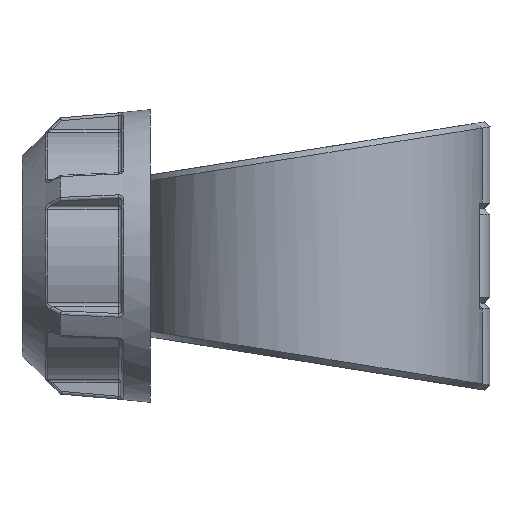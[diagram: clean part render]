
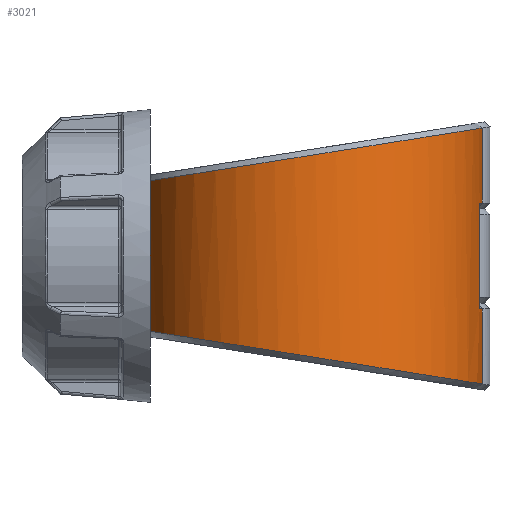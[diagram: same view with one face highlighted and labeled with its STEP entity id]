
A CAD part, left-side view. The second image highlights one B-rep face of the part: STEP entity #3021.
In plain terms, the highlighted cylindrical face has radius 59.5 mm (diameter 119 mm), a partial arc.
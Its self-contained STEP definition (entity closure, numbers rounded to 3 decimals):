
#212=FACE_OUTER_BOUND('',#416,.T.);
#416=EDGE_LOOP('',(#2055,#2056,#2057,#2058,#2059,#2060,#2061,#2062,#2063,
#2064,#2065,#2066));
#623=CIRCLE('',#3251,59.5);
#626=CIRCLE('',#3256,59.5);
#805=B_SPLINE_CURVE_WITH_KNOTS('',3,(#4524,#4525,#4526,#4527),
 .UNSPECIFIED.,.F.,.F.,(4,4),(-0.002,0.),.UNSPECIFIED.);
#806=B_SPLINE_CURVE_WITH_KNOTS('',3,(#4529,#4530,#4531,#4532),
 .UNSPECIFIED.,.F.,.F.,(4,4),(-3.037,-3.037),
 .UNSPECIFIED.);
#807=B_SPLINE_CURVE_WITH_KNOTS('',3,(#4533,#4534,#4535,#4536,#4537,#4538,
#4539,#4540,#4541,#4542),.UNSPECIFIED.,.F.,.F.,(4,1,1,1,1,1,1,4),(0.316,
0.596,1.005,1.415,1.824,2.233,
2.642,3.037),.UNSPECIFIED.);
#808=B_SPLINE_CURVE_WITH_KNOTS('',3,(#4544,#4545,#4546,#4547,#4548,#4549,
#4550,#4551,#4552,#4553),.UNSPECIFIED.,.F.,.F.,(4,1,1,1,1,1,1,4),(-3.037,
-2.642,-2.233,-1.824,-1.415,
-1.005,-0.596,-0.316),.UNSPECIFIED.);
#809=B_SPLINE_CURVE_WITH_KNOTS('',3,(#4555,#4556,#4557,#4558),
 .UNSPECIFIED.,.F.,.F.,(4,4),(3.037,3.037),
 .UNSPECIFIED.);
#810=B_SPLINE_CURVE_WITH_KNOTS('',3,(#4560,#4561,#4562,#4563),
 .UNSPECIFIED.,.F.,.F.,(4,4),(-0.435,-0.433),
 .UNSPECIFIED.);
#972=LINE('',#4397,#1093);
#979=LINE('',#4458,#1100);
#985=LINE('',#4522,#1106);
#986=LINE('',#4564,#1107);
#1093=VECTOR('',#3575,10.);
#1100=VECTOR('',#3592,10.);
#1106=VECTOR('',#3638,10.);
#1107=VECTOR('',#3639,10.);
#1216=VERTEX_POINT('',#4376);
#1217=VERTEX_POINT('',#4396);
#1229=VERTEX_POINT('',#4452);
#1230=VERTEX_POINT('',#4457);
#1236=VERTEX_POINT('',#4478);
#1239=VERTEX_POINT('',#4499);
#1243=VERTEX_POINT('',#4521);
#1244=VERTEX_POINT('',#4523);
#1245=VERTEX_POINT('',#4528);
#1246=VERTEX_POINT('',#4543);
#1247=VERTEX_POINT('',#4554);
#1248=VERTEX_POINT('',#4559);
#1510=EDGE_CURVE('',#1216,#1217,#972,.T.);
#1524=EDGE_CURVE('',#1229,#1230,#979,.T.);
#1537=EDGE_CURVE('',#1236,#1229,#623,.T.);
#1542=EDGE_CURVE('',#1230,#1239,#626,.T.);
#1548=EDGE_CURVE('',#1243,#1236,#985,.T.);
#1549=EDGE_CURVE('',#1244,#1243,#805,.T.);
#1550=EDGE_CURVE('',#1244,#1245,#806,.T.);
#1551=EDGE_CURVE('',#1217,#1245,#807,.T.);
#1552=EDGE_CURVE('',#1246,#1216,#808,.T.);
#1553=EDGE_CURVE('',#1246,#1247,#809,.T.);
#1554=EDGE_CURVE('',#1248,#1247,#810,.T.);
#1555=EDGE_CURVE('',#1239,#1248,#986,.T.);
#2055=ORIENTED_EDGE('',*,*,#1542,.F.);
#2056=ORIENTED_EDGE('',*,*,#1524,.F.);
#2057=ORIENTED_EDGE('',*,*,#1537,.F.);
#2058=ORIENTED_EDGE('',*,*,#1548,.F.);
#2059=ORIENTED_EDGE('',*,*,#1549,.F.);
#2060=ORIENTED_EDGE('',*,*,#1550,.T.);
#2061=ORIENTED_EDGE('',*,*,#1551,.F.);
#2062=ORIENTED_EDGE('',*,*,#1510,.F.);
#2063=ORIENTED_EDGE('',*,*,#1552,.F.);
#2064=ORIENTED_EDGE('',*,*,#1553,.T.);
#2065=ORIENTED_EDGE('',*,*,#1554,.F.);
#2066=ORIENTED_EDGE('',*,*,#1555,.F.);
#2962=CYLINDRICAL_SURFACE('',#3261,59.5);
#3021=ADVANCED_FACE('',(#212),#2962,.T.);
#3251=AXIS2_PLACEMENT_3D('',#4494,#3614,#3615);
#3256=AXIS2_PLACEMENT_3D('',#4508,#3624,#3625);
#3261=AXIS2_PLACEMENT_3D('',#4520,#3636,#3637);
#3575=DIRECTION('',(0.,0.,1.));
#3592=DIRECTION('',(0.,0.,-1.));
#3614=DIRECTION('center_axis',(0.,0.,-1.));
#3615=DIRECTION('ref_axis',(0.312,-0.95,0.));
#3624=DIRECTION('center_axis',(0.,0.,1.));
#3625=DIRECTION('ref_axis',(0.312,-0.95,0.));
#3636=DIRECTION('center_axis',(0.,0.,1.));
#3637=DIRECTION('ref_axis',(-0.312,0.95,0.));
#3638=DIRECTION('',(0.,0.,-1.));
#3639=DIRECTION('',(0.,0.,-1.));
#4376=CARTESIAN_POINT('',(-18.579,56.525,-26.198));
#4396=CARTESIAN_POINT('',(-18.579,56.525,26.198));
#4397=CARTESIAN_POINT('',(-18.579,56.525,0.));
#4452=CARTESIAN_POINT('',(-12.115,-58.254,18.45));
#4457=CARTESIAN_POINT('',(-12.115,-58.254,-18.45));
#4458=CARTESIAN_POINT('',(-12.115,-58.254,0.));
#4478=CARTESIAN_POINT('',(-6.19,-59.177,18.45));
#4494=CARTESIAN_POINT('Origin',(0.,0.,18.45));
#4499=CARTESIAN_POINT('',(-6.19,-59.177,-18.45));
#4508=CARTESIAN_POINT('Origin',(0.,0.,-18.45));
#4520=CARTESIAN_POINT('Origin',(0.,0.,0.));
#4521=CARTESIAN_POINT('',(-6.19,-59.177,44.557));
#4522=CARTESIAN_POINT('',(-6.19,-59.177,0.));
#4523=CARTESIAN_POINT('',(-6.17,-59.179,44.571));
#4524=CARTESIAN_POINT('Ctrl Pts',(-6.17,-59.179,44.571));
#4525=CARTESIAN_POINT('Ctrl Pts',(-6.177,-59.178,44.566));
#4526=CARTESIAN_POINT('Ctrl Pts',(-6.183,-59.177,44.562));
#4527=CARTESIAN_POINT('Ctrl Pts',(-6.19,-59.177,44.557));
#4528=CARTESIAN_POINT('',(-6.19,-59.177,44.571));
#4529=CARTESIAN_POINT('Ctrl Pts',(-6.17,-59.179,44.571));
#4530=CARTESIAN_POINT('Ctrl Pts',(-6.177,-59.178,44.571));
#4531=CARTESIAN_POINT('Ctrl Pts',(-6.183,-59.178,44.571));
#4532=CARTESIAN_POINT('Ctrl Pts',(-6.19,-59.177,44.571));
#4533=CARTESIAN_POINT('Ctrl Pts',(-18.578,56.522,26.198));
#4534=CARTESIAN_POINT('Ctrl Pts',(-23.883,54.777,26.474));
#4535=CARTESIAN_POINT('Ctrl Pts',(-36.333,48.653,27.441));
#4536=CARTESIAN_POINT('Ctrl Pts',(-51.816,32.553,29.988));
#4537=CARTESIAN_POINT('Ctrl Pts',(-60.498,9.2,33.688));
#4538=CARTESIAN_POINT('Ctrl Pts',(-59.15,-15.622,37.631));
#4539=CARTESIAN_POINT('Ctrl Pts',(-48.086,-37.823,41.164));
#4540=CARTESIAN_POINT('Ctrl Pts',(-29.375,-53.586,43.678));
#4541=CARTESIAN_POINT('Ctrl Pts',(-13.932,-58.366,44.441));
#4542=CARTESIAN_POINT('Ctrl Pts',(-6.19,-59.177,44.571));
#4543=CARTESIAN_POINT('',(-6.19,-59.177,-44.571));
#4544=CARTESIAN_POINT('Ctrl Pts',(-6.19,-59.177,-44.571));
#4545=CARTESIAN_POINT('Ctrl Pts',(-13.932,-58.366,-44.441));
#4546=CARTESIAN_POINT('Ctrl Pts',(-29.375,-53.586,-43.678));
#4547=CARTESIAN_POINT('Ctrl Pts',(-48.086,-37.823,-41.164));
#4548=CARTESIAN_POINT('Ctrl Pts',(-59.151,-15.622,-37.631));
#4549=CARTESIAN_POINT('Ctrl Pts',(-60.497,9.2,-33.688));
#4550=CARTESIAN_POINT('Ctrl Pts',(-51.819,32.555,-29.987));
#4551=CARTESIAN_POINT('Ctrl Pts',(-36.33,48.65,-27.442));
#4552=CARTESIAN_POINT('Ctrl Pts',(-23.882,54.776,-26.474));
#4553=CARTESIAN_POINT('Ctrl Pts',(-18.578,56.522,-26.198));
#4554=CARTESIAN_POINT('',(-6.17,-59.179,-44.571));
#4555=CARTESIAN_POINT('Ctrl Pts',(-6.19,-59.177,-44.571));
#4556=CARTESIAN_POINT('Ctrl Pts',(-6.183,-59.178,-44.571));
#4557=CARTESIAN_POINT('Ctrl Pts',(-6.177,-59.178,-44.571));
#4558=CARTESIAN_POINT('Ctrl Pts',(-6.17,-59.179,-44.571));
#4559=CARTESIAN_POINT('',(-6.19,-59.177,-44.557));
#4560=CARTESIAN_POINT('Ctrl Pts',(-6.19,-59.177,-44.557));
#4561=CARTESIAN_POINT('Ctrl Pts',(-6.183,-59.177,-44.562));
#4562=CARTESIAN_POINT('Ctrl Pts',(-6.176,-59.178,-44.566));
#4563=CARTESIAN_POINT('Ctrl Pts',(-6.17,-59.179,-44.571));
#4564=CARTESIAN_POINT('',(-6.19,-59.177,0.));
